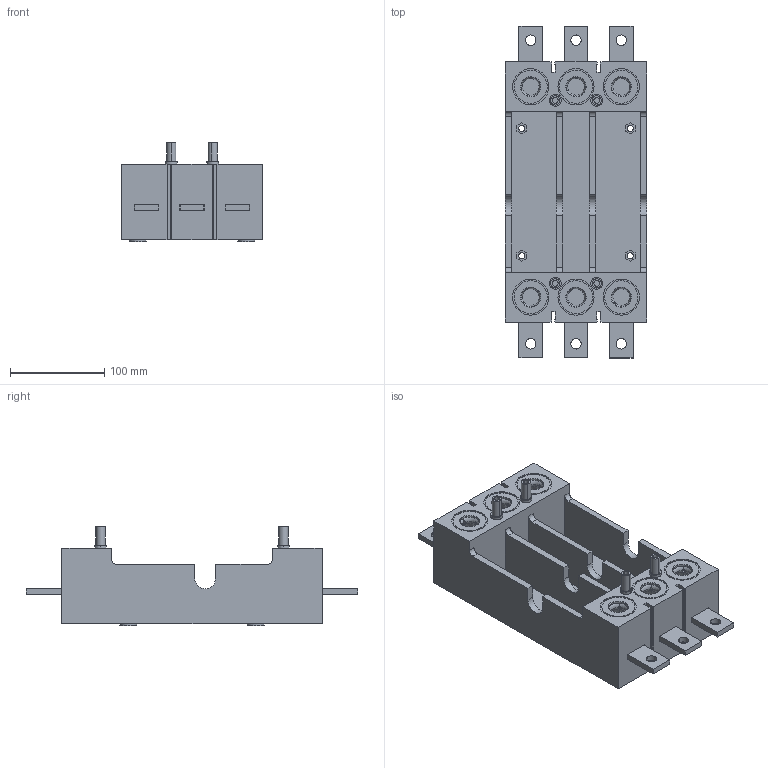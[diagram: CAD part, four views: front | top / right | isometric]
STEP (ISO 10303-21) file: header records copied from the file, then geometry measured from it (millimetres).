
FILE_DESCRIPTION (( 'STEP AP214' ), '1' );
FILE_NAME ('TGM1NE-400-3P Îñíîâàíèå âòû÷íîå.STEP', '2025-12-10T08:51:01', ( '' ), ( '' ), 'SwSTEP 2.0', 'SolidWorks 2024', '' );
FILE_SCHEMA (( 'AUTOMOTIVE_DESIGN' ));
Length unit declared in the file: millimetre
Products named in the file (3): TGM1NE-400-3P Основание втычное; TGM1NE-400-3P Основание втычное.stp; 底座_1_5.stp
Assembly tree (2 placements, depth 3):
  TGM1NE-400-3P Основание втычное
    TGM1NE-400-3P Основание втычное.stp
      底座_1_5.stp
Bounding box: 150 x 352 x 105 mm (x, y, z)
Volume: 1653046.7 mm3; surface area: 360252.4 mm2
Topology: 1 solids, 19 shells, 1478 faces, 3888 edges, 2420 vertices
Faces by surface type: plane 580, cone 360, cylinder 310, torus 204, bspline 24
Entity records: 53653 total; most frequent: CARTESIAN_POINT 17172, ORIENTED_EDGE 7776, DIRECTION 7668, EDGE_CURVE 3888, AXIS2_PLACEMENT_3D 3112, VERTEX_POINT 2420, CIRCLE 1652, EDGE_LOOP 1650
